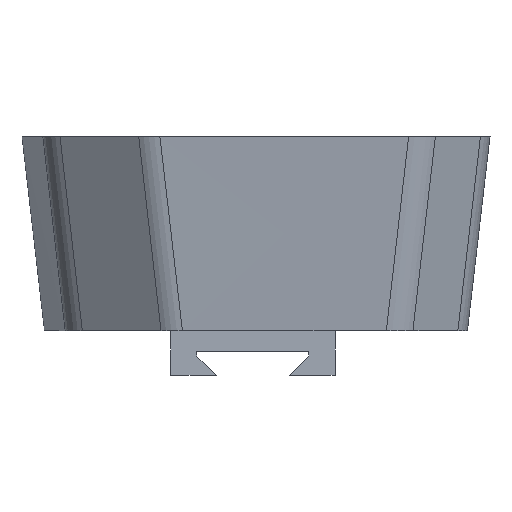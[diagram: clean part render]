
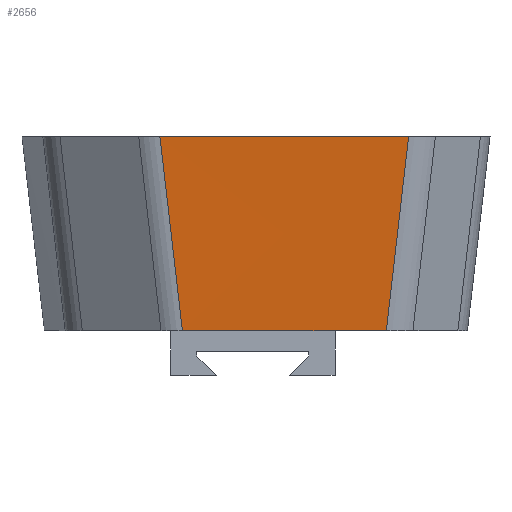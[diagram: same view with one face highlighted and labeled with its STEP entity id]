
A CAD part, left-side view. The second image highlights one B-rep face of the part: STEP entity #2656.
In plain terms, the highlighted free-form (B-spline) face has degree [1, 1] with [2, 2] control points.
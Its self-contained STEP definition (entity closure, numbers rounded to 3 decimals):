
#61 = PLANE('',#62);
#62 = AXIS2_PLACEMENT_3D('',#63,#64,#65);
#63 = CARTESIAN_POINT('',(-28.377,-23.734,6.));
#64 = DIRECTION('',(0.,0.,1.));
#65 = DIRECTION('',(1.,0.,0.));
#128 = PLANE('',#129);
#129 = AXIS2_PLACEMENT_3D('',#130,#131,#132);
#130 = CARTESIAN_POINT('',(-31.349,-26.759,32.));
#131 = DIRECTION('',(0.,0.,1.));
#132 = DIRECTION('',(1.,0.,0.));
#153 = B_SPLINE_SURFACE_WITH_KNOTS('',6,1,(
    (#154,#155)
    ,(#156,#157)
    ,(#158,#159)
    ,(#160,#161)
    ,(#162,#163)
    ,(#164,#165)
    ,(#166,#167
    )),.UNSPECIFIED.,.F.,.F.,.F.,(7,7),(2,2),(3.169,
    3.98),(0.,1.),.PIECEWISE_BEZIER_KNOTS.);
#154 = CARTESIAN_POINT('',(-40.069,-17.87,6.));
#155 = CARTESIAN_POINT('',(-43.058,-20.854,32.));
#156 = CARTESIAN_POINT('',(-40.047,-18.541,6.));
#157 = CARTESIAN_POINT('',(-43.04,-21.53,32.));
#158 = CARTESIAN_POINT('',(-39.917,-19.209,6.));
#159 = CARTESIAN_POINT('',(-42.912,-22.203,32.));
#160 = CARTESIAN_POINT('',(-39.68,-19.851,6.));
#161 = CARTESIAN_POINT('',(-42.675,-22.85,32.));
#162 = CARTESIAN_POINT('',(-39.342,-20.447,6.));
#163 = CARTESIAN_POINT('',(-42.336,-23.45,32.));
#164 = CARTESIAN_POINT('',(-38.915,-20.976,6.));
#165 = CARTESIAN_POINT('',(-41.907,-23.984,32.));
#166 = CARTESIAN_POINT('',(-38.416,-21.425,6.));
#167 = CARTESIAN_POINT('',(-41.405,-24.436,32.));
#566 = VERTEX_POINT('',#567);
#567 = CARTESIAN_POINT('',(-40.95,9.444,6.));
#582 = B_SPLINE_SURFACE_WITH_KNOTS('',6,1,(
    (#583,#584)
    ,(#585,#586)
    ,(#587,#588)
    ,(#589,#590)
    ,(#591,#592)
    ,(#593,#594)
    ,(#595,#596
    )),.UNSPECIFIED.,.F.,.F.,.F.,(7,7),(2,2),(2.57,
    3.174),(0.,1.),.PIECEWISE_BEZIER_KNOTS.);
#583 = CARTESIAN_POINT('',(-40.158,12.309,6.));
#584 = CARTESIAN_POINT('',(-43.166,15.297,32.));
#585 = CARTESIAN_POINT('',(-40.43,11.886,6.));
#586 = CARTESIAN_POINT('',(-43.436,14.878,32.));
#587 = CARTESIAN_POINT('',(-40.651,11.43,6.));
#588 = CARTESIAN_POINT('',(-43.655,14.426,32.));
#589 = CARTESIAN_POINT('',(-40.816,10.949,6.));
#590 = CARTESIAN_POINT('',(-43.82,13.95,32.));
#591 = CARTESIAN_POINT('',(-40.922,10.452,6.));
#592 = CARTESIAN_POINT('',(-43.926,13.457,32.));
#593 = CARTESIAN_POINT('',(-40.966,9.947,6.));
#594 = CARTESIAN_POINT('',(-43.972,12.957,32.));
#595 = CARTESIAN_POINT('',(-40.95,9.444,6.));
#596 = CARTESIAN_POINT('',(-43.958,12.458,32.));
#604 = EDGE_CURVE('',#566,#605,#607,.T.);
#605 = VERTEX_POINT('',#606);
#606 = CARTESIAN_POINT('',(-40.069,-17.87,6.));
#607 = SURFACE_CURVE('',#608,(#612,#619),.PCURVE_S1.);
#608 = LINE('',#609,#610);
#609 = CARTESIAN_POINT('',(-41.,11.,6.));
#610 = VECTOR('',#611,1.);
#611 = DIRECTION('',(0.032,-0.999,0.));
#612 = PCURVE('',#61,#613);
#613 = DEFINITIONAL_REPRESENTATION('',(#614),#618);
#614 = LINE('',#615,#616);
#615 = CARTESIAN_POINT('',(-12.623,34.734));
#616 = VECTOR('',#617,1.);
#617 = DIRECTION('',(0.032,-0.999));
#618 = ( GEOMETRIC_REPRESENTATION_CONTEXT(2) 
PARAMETRIC_REPRESENTATION_CONTEXT() REPRESENTATION_CONTEXT('2D SPACE',''
  ) );
#619 = PCURVE('',#620,#625);
#620 = B_SPLINE_SURFACE_WITH_KNOTS('',1,1,(
    (#621,#622)
    ,(#623,#624
    )),.UNSPECIFIED.,.F.,.F.,.F.,(2,2),(2,2),(1.542,
    34.867),(0.,1.),.PIECEWISE_BEZIER_KNOTS.);
#621 = CARTESIAN_POINT('',(-40.95,9.444,6.));
#622 = CARTESIAN_POINT('',(-43.958,12.458,32.));
#623 = CARTESIAN_POINT('',(-40.069,-17.87,6.));
#624 = CARTESIAN_POINT('',(-43.058,-20.854,32.));
#625 = DEFINITIONAL_REPRESENTATION('',(#626),#629);
#626 = B_SPLINE_CURVE_WITH_KNOTS('',1,(#627,#628),.UNSPECIFIED.,.F.,.F.,
  (2,2),(1.557,28.885),.PIECEWISE_BEZIER_KNOTS.);
#627 = CARTESIAN_POINT('',(1.542,0.));
#628 = CARTESIAN_POINT('',(34.867,0.));
#629 = ( GEOMETRIC_REPRESENTATION_CONTEXT(2) 
PARAMETRIC_REPRESENTATION_CONTEXT() REPRESENTATION_CONTEXT('2D SPACE',''
  ) );
#1066 = VERTEX_POINT('',#1067);
#1067 = CARTESIAN_POINT('',(-43.958,12.458,32.));
#1088 = EDGE_CURVE('',#1066,#1089,#1091,.T.);
#1089 = VERTEX_POINT('',#1090);
#1090 = CARTESIAN_POINT('',(-43.058,-20.854,32.));
#1091 = SURFACE_CURVE('',#1092,(#1096,#1103),.PCURVE_S1.);
#1092 = LINE('',#1093,#1094);
#1093 = CARTESIAN_POINT('',(-44.,14.,32.));
#1094 = VECTOR('',#1095,1.);
#1095 = DIRECTION('',(0.027,-1.,0.));
#1096 = PCURVE('',#128,#1097);
#1097 = DEFINITIONAL_REPRESENTATION('',(#1098),#1102);
#1098 = LINE('',#1099,#1100);
#1099 = CARTESIAN_POINT('',(-12.651,40.759));
#1100 = VECTOR('',#1101,1.);
#1101 = DIRECTION('',(0.027,-1.));
#1102 = ( GEOMETRIC_REPRESENTATION_CONTEXT(2) 
PARAMETRIC_REPRESENTATION_CONTEXT() REPRESENTATION_CONTEXT('2D SPACE',''
  ) );
#1103 = PCURVE('',#620,#1104);
#1104 = DEFINITIONAL_REPRESENTATION('',(#1105),#1109);
#1105 = LINE('',#1106,#1107);
#1106 = CARTESIAN_POINT('',(0.,1.));
#1107 = VECTOR('',#1108,1.);
#1108 = DIRECTION('',(1.,0.));
#1109 = ( GEOMETRIC_REPRESENTATION_CONTEXT(2) 
PARAMETRIC_REPRESENTATION_CONTEXT() REPRESENTATION_CONTEXT('2D SPACE',''
  ) );
#2637 = EDGE_CURVE('',#605,#1089,#2638,.T.);
#2638 = SURFACE_CURVE('',#2639,(#2642,#2649),.PCURVE_S1.);
#2639 = B_SPLINE_CURVE_WITH_KNOTS('',1,(#2640,#2641),.UNSPECIFIED.,.F.,
  .F.,(2,2),(0.,1.),.PIECEWISE_BEZIER_KNOTS.);
#2640 = CARTESIAN_POINT('',(-40.069,-17.87,6.));
#2641 = CARTESIAN_POINT('',(-43.058,-20.854,32.));
#2642 = PCURVE('',#153,#2643);
#2643 = DEFINITIONAL_REPRESENTATION('',(#2644),#2648);
#2644 = LINE('',#2645,#2646);
#2645 = CARTESIAN_POINT('',(3.169,0.));
#2646 = VECTOR('',#2647,1.);
#2647 = DIRECTION('',(0.,1.));
#2648 = ( GEOMETRIC_REPRESENTATION_CONTEXT(2) 
PARAMETRIC_REPRESENTATION_CONTEXT() REPRESENTATION_CONTEXT('2D SPACE',''
  ) );
#2649 = PCURVE('',#620,#2650);
#2650 = DEFINITIONAL_REPRESENTATION('',(#2651),#2655);
#2651 = LINE('',#2652,#2653);
#2652 = CARTESIAN_POINT('',(34.867,0.));
#2653 = VECTOR('',#2654,1.);
#2654 = DIRECTION('',(0.,1.));
#2655 = ( GEOMETRIC_REPRESENTATION_CONTEXT(2) 
PARAMETRIC_REPRESENTATION_CONTEXT() REPRESENTATION_CONTEXT('2D SPACE',''
  ) );
#2656 = ADVANCED_FACE('',(#2657),#620,.T.);
#2657 = FACE_BOUND('',#2658,.T.);
#2658 = EDGE_LOOP('',(#2659,#2660,#2661,#2662));
#2659 = ORIENTED_EDGE('',*,*,#604,.T.);
#2660 = ORIENTED_EDGE('',*,*,#2637,.T.);
#2661 = ORIENTED_EDGE('',*,*,#1088,.F.);
#2662 = ORIENTED_EDGE('',*,*,#2663,.F.);
#2663 = EDGE_CURVE('',#566,#1066,#2664,.T.);
#2664 = SURFACE_CURVE('',#2665,(#2668,#2675),.PCURVE_S1.);
#2665 = B_SPLINE_CURVE_WITH_KNOTS('',1,(#2666,#2667),.UNSPECIFIED.,.F.,
  .F.,(2,2),(0.,1.),.PIECEWISE_BEZIER_KNOTS.);
#2666 = CARTESIAN_POINT('',(-40.95,9.444,6.));
#2667 = CARTESIAN_POINT('',(-43.958,12.458,32.));
#2668 = PCURVE('',#620,#2669);
#2669 = DEFINITIONAL_REPRESENTATION('',(#2670),#2674);
#2670 = LINE('',#2671,#2672);
#2671 = CARTESIAN_POINT('',(1.542,0.));
#2672 = VECTOR('',#2673,1.);
#2673 = DIRECTION('',(0.,1.));
#2674 = ( GEOMETRIC_REPRESENTATION_CONTEXT(2) 
PARAMETRIC_REPRESENTATION_CONTEXT() REPRESENTATION_CONTEXT('2D SPACE',''
  ) );
#2675 = PCURVE('',#582,#2676);
#2676 = DEFINITIONAL_REPRESENTATION('',(#2677),#2681);
#2677 = LINE('',#2678,#2679);
#2678 = CARTESIAN_POINT('',(3.174,0.));
#2679 = VECTOR('',#2680,1.);
#2680 = DIRECTION('',(0.,1.));
#2681 = ( GEOMETRIC_REPRESENTATION_CONTEXT(2) 
PARAMETRIC_REPRESENTATION_CONTEXT() REPRESENTATION_CONTEXT('2D SPACE',''
  ) );
